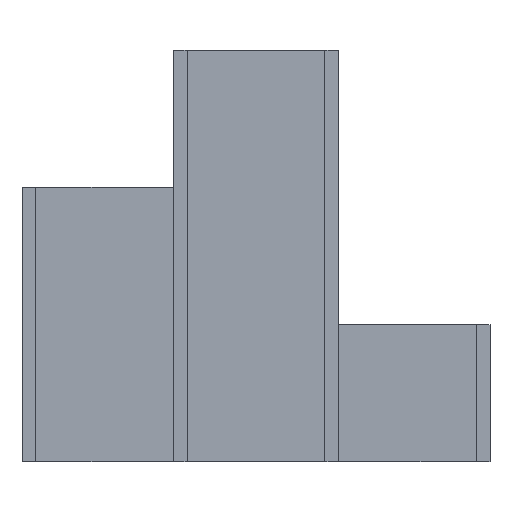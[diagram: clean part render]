
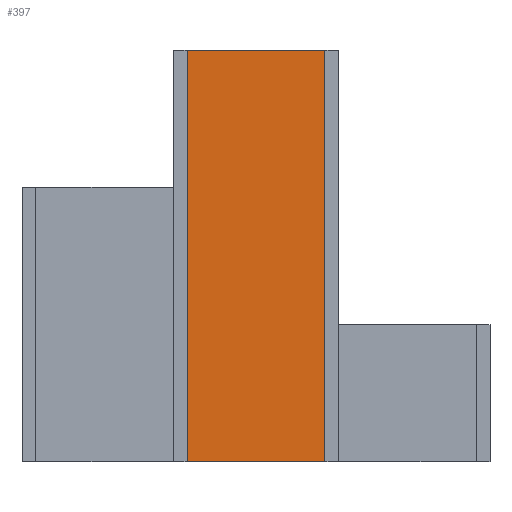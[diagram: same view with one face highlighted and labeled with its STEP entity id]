
A CAD part, front view. The second image highlights one B-rep face of the part: STEP entity #397.
In plain terms, the highlighted planar face has unit normal (0, -1, 0).
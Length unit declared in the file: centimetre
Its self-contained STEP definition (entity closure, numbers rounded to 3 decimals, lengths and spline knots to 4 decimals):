
#31=FACE_OUTER_BOUND($,#51,.T.);
#51=EDGE_LOOP($,(#347,#348,#349,#350));
#53=LINE($,#522,#107);
#78=LINE($,#573,#132);
#104=LINE($,#623,#158);
#106=LINE($,#626,#160);
#107=VECTOR($,#426,6.);
#132=VECTOR($,#467,6.);
#158=VECTOR($,#509,2.01);
#160=VECTOR($,#513,2.01);
#161=VERTEX_POINT($,#520);
#162=VERTEX_POINT($,#521);
#179=VERTEX_POINT($,#571);
#180=VERTEX_POINT($,#572);
#197=EDGE_CURVE($,#161,#162,#53,.T.);
#222=EDGE_CURVE($,#179,#180,#78,.T.);
#248=EDGE_CURVE($,#162,#179,#104,.T.);
#250=EDGE_CURVE($,#180,#161,#106,.T.);
#347=ORIENTED_EDGE($,*,*,#250,.T.);
#348=ORIENTED_EDGE($,*,*,#197,.T.);
#349=ORIENTED_EDGE($,*,*,#248,.T.);
#350=ORIENTED_EDGE($,*,*,#222,.T.);
#377=PLANE($,#420);
#397=ADVANCED_FACE($,(#31),#377,.T.);
#420=AXIS2_PLACEMENT_3D($,#627,#514,#515);
#426=DIRECTION($,(0.,0.,-1.));
#467=DIRECTION($,(0.,0.,1.));
#509=DIRECTION($,(1.,0.,0.));
#513=DIRECTION($,(-1.,0.,0.));
#514=DIRECTION('center_axis',(0.,-1.,0.));
#515=DIRECTION('ref_axis',(1.,0.,0.));
#520=CARTESIAN_POINT('',(-13.01,3.9,6.));
#521=CARTESIAN_POINT('',(-13.01,3.9,0.));
#522=CARTESIAN_POINT($,(-13.01,3.9,0.));
#571=CARTESIAN_POINT('',(-11.,3.9,0.));
#572=CARTESIAN_POINT('',(-11.,3.9,6.));
#573=CARTESIAN_POINT($,(-11.,3.9,6.));
#623=CARTESIAN_POINT($,(-11.,3.9,0.));
#626=CARTESIAN_POINT($,(-13.01,3.9,6.));
#627=CARTESIAN_POINT('Origin',(-12.005,3.9,3.));
